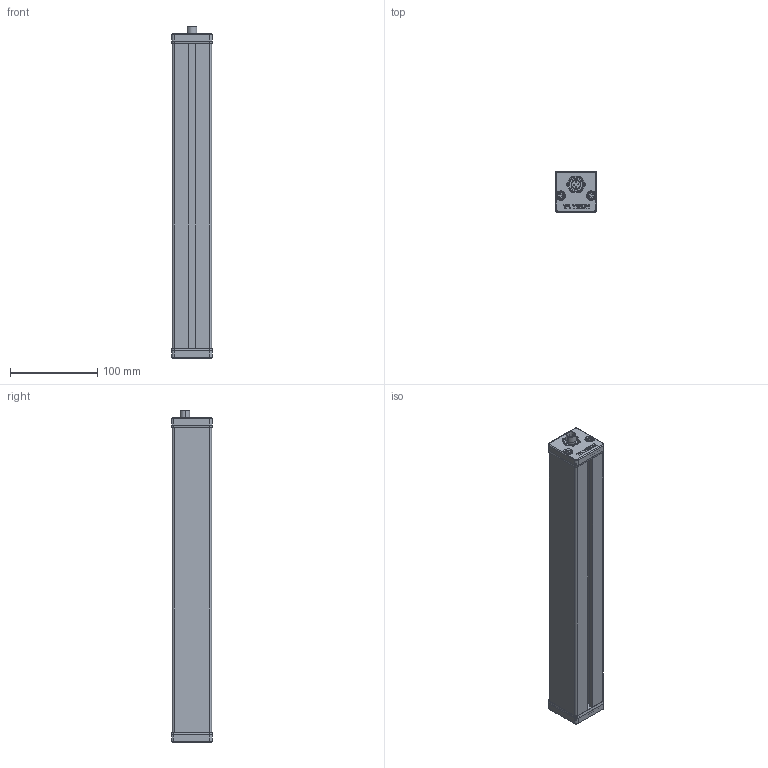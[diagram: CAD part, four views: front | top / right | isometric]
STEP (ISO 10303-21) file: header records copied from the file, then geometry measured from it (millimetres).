
FILE_DESCRIPTION (( 'STEP AP214' ), '1' );
FILE_NAME ('XBAR12.STEP', '2012-07-10T09:12:29', ( ' ' ), ( '' ), 'SwSTEP 2.0', 'SolidWorks 2009', '' );
FILE_SCHEMA (( 'AUTOMOTIVE_DESIGN' ));
Length unit declared in the file: millimetre
Products named in the file (1): XBAR12
Bounding box: 47 x 47 x 381.1 mm (x, y, z)
Volume: 201612.4 mm3; surface area: 205961.5 mm2
Topology: 9 solids, 9 shells, 631 faces, 1565 edges, 992 vertices
Faces by surface type: plane 300, cylinder 175, torus 62, bspline 58, cone 28, sphere 8
Entity records: 28413 total; most frequent: CARTESIAN_POINT 6647, ORIENTED_EDGE 3098, DIRECTION 2991, EDGE_CURVE 1549, AXIS2_PLACEMENT_3D 1016, VERTEX_POINT 984, VECTOR 959, LINE 959
